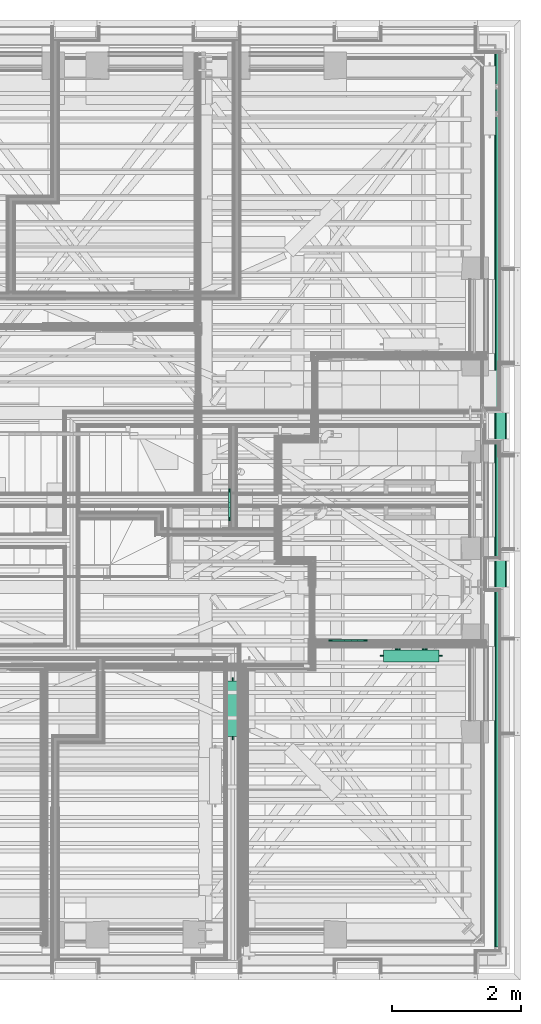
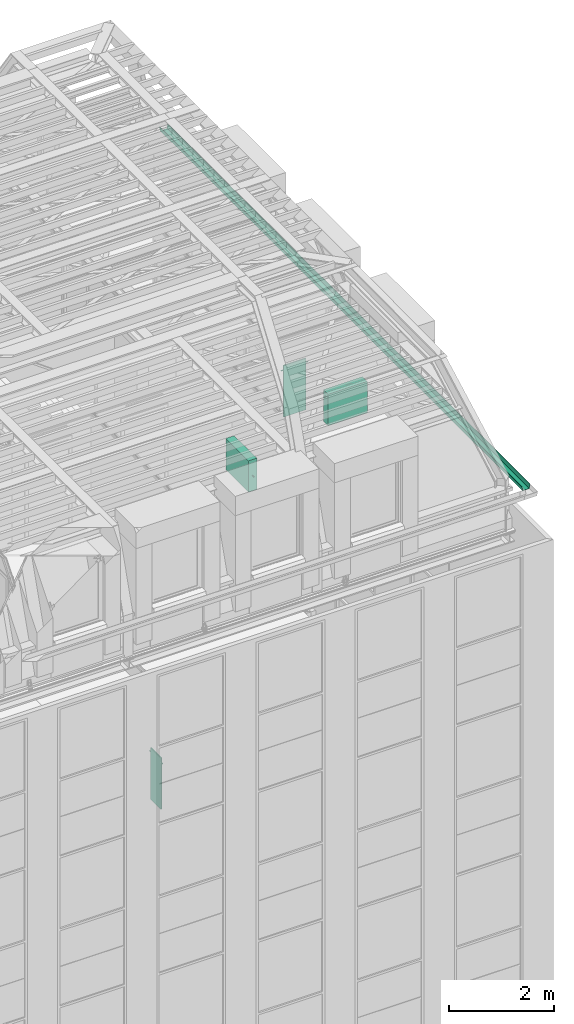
# One storey, part 167 of 183: 4 flow terminals, 1 flow fitting.
"""IFC2X3 building model written with IfcOpenShell, lengths in metres."""

from ifc_helpers import new_model, entity, si_unit, converted_unit, derived_unit, money_unit, direction, frame, origin_with_axes, place, context, subcontext, project, spatial, open_shell, faceted_brep, surface_model, material, type_object, element, save


model = new_model("IFC2X3")

# Units and contexts
model_context = context("Model", 3, precision=1e-05, world=origin_with_axes(), true_north=direction((0.0, 1.0)))
body_context = subcontext(model_context, "Body", "Model", "MODEL_VIEW", scale=1.0)
ifc_project = project(units=[si_unit("LENGTHUNIT", "METRE"), si_unit("AREAUNIT", "SQUARE_METRE"), si_unit("VOLUMEUNIT", "CUBIC_METRE"), si_unit("ABSORBEDDOSEUNIT", "GRAY"), si_unit("AMOUNTOFSUBSTANCEUNIT", "MOLE"), si_unit("DOSEEQUIVALENTUNIT", "SIEVERT"), si_unit("ELECTRICCAPACITANCEUNIT", "FARAD"), si_unit("ELECTRICCHARGEUNIT", "COULOMB"), si_unit("ELECTRICCONDUCTANCEUNIT", "SIEMENS"), si_unit("ELECTRICCURRENTUNIT", "AMPERE"), si_unit("ELECTRICRESISTANCEUNIT", "OHM"), si_unit("ELECTRICVOLTAGEUNIT", "VOLT"), si_unit("ENERGYUNIT", "JOULE"), si_unit("FORCEUNIT", "NEWTON"), si_unit("FREQUENCYUNIT", "HERTZ"), si_unit("ILLUMINANCEUNIT", "LUX"), si_unit("INDUCTANCEUNIT", "HENRY"), si_unit("LUMINOUSFLUXUNIT", "LUMEN"), si_unit("LUMINOUSINTENSITYUNIT", "CANDELA"), si_unit("MAGNETICFLUXDENSITYUNIT", "TESLA"), si_unit("MAGNETICFLUXUNIT", "WEBER"), si_unit("MASSUNIT", "GRAM"), converted_unit("PLANEANGLEUNIT", "degree", entity("IfcReal", 0.0174532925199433), si_unit("PLANEANGLEUNIT", "RADIAN"), dimensions=[0, 0, 0, 0, 0, 0, 0]), si_unit("POWERUNIT", "WATT"), si_unit("PRESSUREUNIT", "PASCAL"), si_unit("RADIOACTIVITYUNIT", "BECQUEREL"), si_unit("SOLIDANGLEUNIT", "STERADIAN"), si_unit("THERMODYNAMICTEMPERATUREUNIT", "KELVIN"), si_unit("TIMEUNIT", "SECOND"), derived_unit("ACCELERATIONUNIT", [(si_unit("LENGTHUNIT", "METRE"), 1), (si_unit("TIMEUNIT", "SECOND"), -2)]), derived_unit("ANGULARVELOCITYUNIT", [(converted_unit("PLANEANGLEUNIT", "degree", entity("IfcReal", 0.0174532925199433), si_unit("PLANEANGLEUNIT", "RADIAN"), dimensions=[0, 0, 0, 0, 0, 0, 0]), 1), (si_unit("TIMEUNIT", "SECOND"), -1)]), derived_unit("CURVATUREUNIT", [(converted_unit("PLANEANGLEUNIT", "degree", entity("IfcReal", 0.0174532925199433), si_unit("PLANEANGLEUNIT", "RADIAN"), dimensions=[0, 0, 0, 0, 0, 0, 0]), 1), (si_unit("LENGTHUNIT", "METRE"), -1)]), derived_unit("DYNAMICVISCOSITYUNIT", [(si_unit("PRESSUREUNIT", "PASCAL"), 1), (si_unit("TIMEUNIT", "SECOND"), 1)]), derived_unit("HEATFLUXDENSITYUNIT", [(si_unit("POWERUNIT", "WATT"), 1), (si_unit("LENGTHUNIT", "METRE"), -2)]), derived_unit("HEATINGVALUEUNIT", [(si_unit("ENERGYUNIT", "JOULE"), 1), (si_unit("MASSUNIT", "GRAM"), -1)]), derived_unit("INTEGERCOUNTRATEUNIT", [(si_unit("TIMEUNIT", "SECOND"), -1)]), derived_unit("IONCONCENTRATIONUNIT", [(si_unit("MASSUNIT", "GRAM"), 1), (si_unit("VOLUMEUNIT", "CUBIC_METRE"), -1)]), derived_unit("ISOTHERMALMOISTURECAPACITYUNIT", [(si_unit("VOLUMEUNIT", "CUBIC_METRE"), 1), (si_unit("MASSUNIT", "GRAM"), -1)]), derived_unit("KINEMATICVISCOSITYUNIT", [(si_unit("AREAUNIT", "SQUARE_METRE"), 1), (si_unit("TIMEUNIT", "SECOND"), -1)]), derived_unit("LINEARFORCEUNIT", [(si_unit("FORCEUNIT", "NEWTON"), 1), (si_unit("LENGTHUNIT", "METRE"), -1)]), derived_unit("LINEARMOMENTUNIT", [(si_unit("FORCEUNIT", "NEWTON"), 1), (si_unit("LENGTHUNIT", "METRE"), -1)]), derived_unit("LINEARSTIFFNESSUNIT", [(si_unit("FORCEUNIT", "NEWTON"), 1), (si_unit("LENGTHUNIT", "METRE"), -1)]), derived_unit("LINEARVELOCITYUNIT", [(si_unit("LENGTHUNIT", "METRE"), 1), (si_unit("TIMEUNIT", "SECOND"), -1)]), derived_unit("LUMINOUSINTENSITYDISTRIBUTIONUNIT", [(si_unit("LUMINOUSINTENSITYUNIT", "CANDELA"), 1), (si_unit("LUMINOUSFLUXUNIT", "LUMEN"), -1)]), derived_unit("MASSDENSITYUNIT", [(si_unit("MASSUNIT", "GRAM"), 1), (si_unit("VOLUMEUNIT", "CUBIC_METRE"), -1)]), derived_unit("MASSFLOWRATEUNIT", [(si_unit("MASSUNIT", "GRAM"), 1), (si_unit("TIMEUNIT", "SECOND"), -1)]), derived_unit("MASSPERLENGTHUNIT", [(si_unit("MASSUNIT", "GRAM"), 1), (si_unit("LENGTHUNIT", "METRE"), -1)]), derived_unit("MODULUSOFELASTICITYUNIT", [(si_unit("FORCEUNIT", "NEWTON"), 1), (si_unit("AREAUNIT", "SQUARE_METRE"), -1)]), derived_unit("MODULUSOFLINEARSUBGRADEREACTIONUNIT", [(si_unit("FORCEUNIT", "NEWTON"), 1), (si_unit("LENGTHUNIT", "METRE"), -2)]), derived_unit("MODULUSOFROTATIONALSUBGRADEREACTIONUNIT", [(si_unit("FORCEUNIT", "NEWTON"), 1), (si_unit("LENGTHUNIT", "METRE"), 1)]), derived_unit("MODULUSOFSUBGRADEREACTIONUNIT", [(si_unit("FORCEUNIT", "NEWTON"), 1), (si_unit("VOLUMEUNIT", "CUBIC_METRE"), -1)]), derived_unit("MOISTUREDIFFUSIVITYUNIT", [(si_unit("VOLUMEUNIT", "CUBIC_METRE"), 1), (si_unit("TIMEUNIT", "SECOND"), -1)]), derived_unit("MOLECULARWEIGHTUNIT", [(si_unit("MASSUNIT", "GRAM"), 1), (si_unit("AMOUNTOFSUBSTANCEUNIT", "MOLE"), -1)]), derived_unit("PLANARFORCEUNIT", [(si_unit("FORCEUNIT", "NEWTON"), 1), (si_unit("LENGTHUNIT", "METRE"), -2)]), derived_unit("ROTATIONALFREQUENCYUNIT", [(si_unit("TIMEUNIT", "SECOND"), -1)]), derived_unit("ROTATIONALMASSUNIT", [(si_unit("MASSUNIT", "GRAM"), 1), (si_unit("LENGTHUNIT", "METRE"), 2)]), derived_unit("ROTATIONALSTIFFNESSUNIT", [(si_unit("FORCEUNIT", "NEWTON"), 1), (si_unit("LENGTHUNIT", "METRE"), 1), (converted_unit("PLANEANGLEUNIT", "degree", entity("IfcReal", 0.0174532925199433), si_unit("PLANEANGLEUNIT", "RADIAN"), dimensions=[0, 0, 0, 0, 0, 0, 0]), -1)]), derived_unit("SECTIONAREAINTEGRALUNIT", [(si_unit("LENGTHUNIT", "METRE"), 5)]), derived_unit("SECTIONMODULUSUNIT", [(si_unit("LENGTHUNIT", "METRE"), 3)]), derived_unit("SHEARMODULUSUNIT", [(si_unit("FORCEUNIT", "NEWTON"), 1), (si_unit("AREAUNIT", "SQUARE_METRE"), -1)]), derived_unit("SOUNDPOWERUNIT", [(si_unit("ENERGYUNIT", "JOULE"), 1), (si_unit("TIMEUNIT", "SECOND"), -1)]), derived_unit("SPECIFICHEATCAPACITYUNIT", [(si_unit("FORCEUNIT", "NEWTON"), 1), (si_unit("MASSUNIT", "GRAM"), -1), (si_unit("THERMODYNAMICTEMPERATUREUNIT", "KELVIN"), -1)]), derived_unit("TEMPERATUREGRADIENTUNIT", [(si_unit("THERMODYNAMICTEMPERATUREUNIT", "KELVIN"), 1), (si_unit("LENGTHUNIT", "METRE"), -1)]), derived_unit("THERMALADMITTANCEUNIT", [(si_unit("POWERUNIT", "WATT"), 1), (si_unit("AREAUNIT", "SQUARE_METRE"), -1), (si_unit("THERMODYNAMICTEMPERATUREUNIT", "KELVIN"), -1)]), derived_unit("THERMALCONDUCTANCEUNIT", [(si_unit("POWERUNIT", "WATT"), 1), (si_unit("LENGTHUNIT", "METRE"), -1), (si_unit("THERMODYNAMICTEMPERATUREUNIT", "KELVIN"), -1)]), derived_unit("THERMALEXPANSIONCOEFFICIENTUNIT", [(si_unit("THERMODYNAMICTEMPERATUREUNIT", "KELVIN"), -1)]), derived_unit("THERMALRESISTANCEUNIT", [(si_unit("AREAUNIT", "SQUARE_METRE"), 1), (si_unit("POWERUNIT", "WATT"), -1)]), derived_unit("THERMALTRANSMITTANCEUNIT", [(si_unit("POWERUNIT", "WATT"), 1), (si_unit("AREAUNIT", "SQUARE_METRE"), -1), (si_unit("THERMODYNAMICTEMPERATUREUNIT", "KELVIN"), -1)]), derived_unit("TORQUEUNIT", [(si_unit("FORCEUNIT", "NEWTON"), 1), (si_unit("LENGTHUNIT", "METRE"), 1)]), derived_unit("VAPORPERMEABILITYUNIT", [(si_unit("MASSUNIT", "GRAM"), 1), (si_unit("TIMEUNIT", "SECOND"), -1)]), derived_unit("VOLUMETRICFLOWRATEUNIT", [(si_unit("VOLUMEUNIT", "CUBIC_METRE"), 1), (si_unit("TIMEUNIT", "SECOND"), -1)]), derived_unit("WARPINGCONSTANTUNIT", [(si_unit("LENGTHUNIT", "METRE"), 6)]), derived_unit("WARPINGMOMENTUNIT", [(si_unit("FORCEUNIT", "NEWTON"), 1), (si_unit("LENGTHUNIT", "METRE"), 2)]), money_unit("GBP")], contexts=[model_context])

# Site, building, storey
site_placement = place(None, origin_with_axes())
site = spatial("IfcSite", under=ifc_project, at=site_placement, Name="Site", CompositionType="ELEMENT")
building_placement = place(site_placement, origin_with_axes())
building = spatial("IfcBuilding", under=site, at=building_placement, Name="Building01", CompositionType="ELEMENT")
storey_placement = place(building_placement, frame((0.0, 0.0, 5.15), z_axis=(0.0, 0.0, 1.0), x_axis=(1.0, 0.0, 0.0)))
storey = spatial("IfcBuildingStorey", under=building, at=storey_placement, Name="1F", CompositionType="ELEMENT", Elevation=5.15)

# Flow fitting
ifc_material_1 = material(Name="A_BSUK_RainwaterDrainageSystems")
pipe_fitting_type = type_object("IfcPipeFittingType", Name="A-RainwaterDrainageSystems-GutterStraight", PredefinedType="NOTDEFINED")
flow_fitting_placement = place(storey_placement, frame((26.576848, 14.385347, 10.629268), z_axis=(0.0, 0.0, 1.0), x_axis=(0.0, -1.0, 0.0)))
element("IfcFlowFitting", 1, at=flow_fitting_placement, inside=storey, type_object=pipe_fitting_type, material=ifc_material_1, Name="A-RainwaterDrainageSystems-GutterStraight", ObjectType="A-RainwaterDrainageSystems-GutterStraight", context=body_context, shape_type="Brep", body=[
    faceted_brep([(13.871001, 0.0, 0.100732), (1e-06, 0.0, 0.100732), (1e-06, 0.0, 0.099144), (13.871001, 0.0, 0.099145), (13.871001, 0.005654, 0.099145), (1e-06, 0.005654, 0.099144), (1e-06, 0.018707, 0.0), (13.871001, 0.018707, 0.0), (1e-06, 0.170099, 0.0), (13.871001, 0.170099, 0.0), (1e-06, 0.183152, 0.099144), (13.871001, 0.183152, 0.099145), (1e-06, 0.188806, 0.099144), (13.871001, 0.188806, 0.099145), (1e-06, 0.188806, 0.100732), (13.871001, 0.188806, 0.100732), (1e-06, 0.18176, 0.100732), (13.871001, 0.18176, 0.100732), (1e-06, 0.168707, 0.001588), (13.871001, 0.168707, 0.001588), (1e-06, 0.020099, 0.001588), (13.871001, 0.020099, 0.001588), (1e-06, 0.007047, 0.100732), (13.871001, 0.007047, 0.100732)], [[[0, 1, 2, 3]], [[4, 5, 6, 7]], [[7, 6, 8, 9]], [[9, 8, 10, 11]], [[11, 10, 12, 13]], [[13, 12, 14, 15]], [[15, 14, 16, 17]], [[17, 16, 18, 19]], [[19, 18, 20, 21]], [[21, 20, 22, 23]], [[23, 22, 1, 0]], [[3, 4, 7, 9, 11, 13, 15, 17, 19, 21, 23, 0]], [[3, 2, 5, 4]], [[1, 22, 20, 18, 16, 14, 12, 10, 8, 6, 5, 2]]]),
])

# Space
space_1_placement = place(storey_placement, frame((17.73844, 7.349915, 9.81), z_axis=(0.0, 0.0, 1.0), x_axis=(0.0, -1.0, 0.0)))
space_1 = spatial("IfcSpace", under=storey, at=space_1_placement, Name="24", CompositionType="ELEMENT", InteriorOrExteriorSpace="NOTDEFINED")

# Flow terminals
ifc_material_2 = material(Name="M_BSUK_Ventilation")
space_heater_type_1 = type_object("IfcSpaceHeaterType", Name="M-BmvRadiatorpanel-Panel", PredefinedType="NOTDEFINED")
flow_terminal_1_placement = place(storey_placement, frame((22.514774, 3.777439, 10.445), z_axis=(0.0, 0.0, 1.0), x_axis=(0.0, -1.0, 0.0)))
element("IfcFlowTerminal", 2, at=flow_terminal_1_placement, inside=space_1, type_object=space_heater_type_1, material=ifc_material_2, Name="M-BmvRadiatorpanel-Panel", ObjectType="M-BmvRadiatorpanel-Panel", context=body_context, shape_type="SurfaceModel", body=[
    surface_model("IfcShellBasedSurfaceModel", [(-0.865, -0.0925, 0.365), (-0.865, 0.0925, 0.365), (0.0, 0.0925, 0.365), (0.0, -0.0925, 0.365), (-0.865, -0.0925, -0.365), (-0.865, 0.0925, -0.365), (0.0, -0.0925, -0.365), (0.0, 0.0925, -0.365), (-0.1325, 0.12025, 0.175), (-0.7325, 0.12025, 0.175), (-0.7325, 0.14525, 0.175), (-0.1325, 0.14525, 0.175), (-0.7325, 0.14525, -0.175), (-0.1325, 0.14525, -0.175), (-0.7325, 0.12025, -0.175), (-0.1325, 0.12025, -0.175), (-0.2225, 0.0925, 0.0775), (-0.2225, 0.12025, 0.0775), (-0.205279, 0.12025, 0.080925), (-0.205279, 0.0925, 0.080925), (-0.19068, 0.12025, 0.09068), (-0.19068, 0.0925, 0.09068), (-0.180925, 0.12025, 0.105279), (-0.180925, 0.0925, 0.105279), (-0.1775, 0.12025, 0.1225), (-0.1775, 0.0925, 0.1225), (-0.180925, 0.12025, 0.139721), (-0.180925, 0.0925, 0.139721), (-0.19068, 0.12025, 0.15432), (-0.19068, 0.0925, 0.15432), (-0.205279, 0.12025, 0.164075), (-0.205279, 0.0925, 0.164075), (-0.2225, 0.12025, 0.1675), (-0.2225, 0.0925, 0.1675), (-0.239721, 0.12025, 0.164075), (-0.239721, 0.0925, 0.164075), (-0.25432, 0.12025, 0.15432), (-0.25432, 0.0925, 0.15432), (-0.264075, 0.12025, 0.139721), (-0.264075, 0.0925, 0.139721), (-0.2675, 0.12025, 0.1225), (-0.2675, 0.0925, 0.1225), (-0.264075, 0.12025, 0.105279), (-0.264075, 0.0925, 0.105279), (-0.25432, 0.12025, 0.09068), (-0.25432, 0.0925, 0.09068), (-0.239721, 0.12025, 0.080925), (-0.239721, 0.0925, 0.080925), (-0.6425, 0.0925, 0.0775), (-0.6425, 0.12025, 0.0775), (-0.625279, 0.12025, 0.080925), (-0.625279, 0.0925, 0.080925), (-0.61068, 0.12025, 0.09068), (-0.61068, 0.0925, 0.09068), (-0.600925, 0.12025, 0.105279), (-0.600925, 0.0925, 0.105279), (-0.5975, 0.12025, 0.1225), (-0.5975, 0.0925, 0.1225), (-0.600925, 0.12025, 0.139721), (-0.600925, 0.0925, 0.139721), (-0.61068, 0.12025, 0.15432), (-0.61068, 0.0925, 0.15432), (-0.625279, 0.12025, 0.164075), (-0.625279, 0.0925, 0.164075), (-0.6425, 0.12025, 0.1675), (-0.6425, 0.0925, 0.1675), (-0.659721, 0.12025, 0.164075), (-0.659721, 0.0925, 0.164075), (-0.67432, 0.12025, 0.15432), (-0.67432, 0.0925, 0.15432), (-0.684075, 0.12025, 0.139721), (-0.684075, 0.0925, 0.139721), (-0.6875, 0.12025, 0.1225), (-0.6875, 0.0925, 0.1225), (-0.684075, 0.12025, 0.105279), (-0.684075, 0.0925, 0.105279), (-0.67432, 0.12025, 0.09068), (-0.67432, 0.0925, 0.09068), (-0.659721, 0.12025, 0.080925), (-0.659721, 0.0925, 0.080925), (0.05, 0.0, -0.0225), (0.0, 0.0, -0.0225), (0.0, 0.004784, -0.021548), (0.05, 0.004784, -0.021548), (0.0, 0.008839, -0.018839), (0.05, 0.008839, -0.018839), (0.0, 0.011548, -0.014784), (0.05, 0.011548, -0.014784), (0.0, 0.0125, -0.01), (0.05, 0.0125, -0.01), (0.0, 0.011548, -0.005216), (0.05, 0.011548, -0.005216), (0.0, 0.008839, -0.001161), (0.05, 0.008839, -0.001161), (0.0, 0.004784, 0.001548), (0.05, 0.004784, 0.001548), (0.0, 0.0, 0.0025), (0.05, 0.0, 0.0025), (0.0, -0.004784, 0.001548), (0.05, -0.004784, 0.001548), (0.0, -0.008839, -0.001161), (0.05, -0.008839, -0.001161), (0.0, -0.011548, -0.005216), (0.05, -0.011548, -0.005216), (0.0, -0.0125, -0.01), (0.05, -0.0125, -0.01), (0.0, -0.011548, -0.014784), (0.05, -0.011548, -0.014784), (0.0, -0.008839, -0.018839), (0.05, -0.008839, -0.018839), (0.0, -0.004784, -0.021548), (0.05, -0.004784, -0.021548), (-0.915, 0.0, 0.2525), (-0.865, 0.0, 0.2525), (-0.865, -0.004784, 0.253452), (-0.915, -0.004784, 0.253452), (-0.865, -0.008839, 0.256161), (-0.915, -0.008839, 0.256161), (-0.865, -0.011548, 0.260216), (-0.915, -0.011548, 0.260216), (-0.865, -0.0125, 0.265), (-0.915, -0.0125, 0.265), (-0.865, -0.011548, 0.269784), (-0.915, -0.011548, 0.269784), (-0.865, -0.008839, 0.273839), (-0.915, -0.008839, 0.273839), (-0.865, -0.004784, 0.276548), (-0.915, -0.004784, 0.276548), (-0.865, 0.0, 0.2775), (-0.915, 0.0, 0.2775), (-0.865, 0.004784, 0.276548), (-0.915, 0.004784, 0.276548), (-0.865, 0.008839, 0.273839), (-0.915, 0.008839, 0.273839), (-0.865, 0.011548, 0.269784), (-0.915, 0.011548, 0.269784), (-0.865, 0.0125, 0.265), (-0.915, 0.0125, 0.265), (-0.865, 0.011548, 0.260216), (-0.915, 0.011548, 0.260216), (-0.865, 0.008839, 0.256161), (-0.915, 0.008839, 0.256161), (-0.865, 0.004784, 0.253452), (-0.915, 0.004784, 0.253452)], [open_shell([[[0, 1, 2, 3]], [[4, 5, 1, 0]], [[6, 7, 5, 4]], [[3, 2, 7, 6]], [[1, 5, 7, 2]], [[3, 6, 4, 0]], [[8, 9, 10, 11]], [[11, 10, 12, 13]], [[13, 12, 14, 15]], [[15, 14, 9, 8]], [[9, 14, 12, 10]], [[11, 13, 15, 8]], [[16, 17, 18, 19]], [[19, 18, 20, 21]], [[21, 20, 22, 23]], [[23, 22, 24, 25]], [[25, 24, 26, 27]], [[27, 26, 28, 29]], [[29, 28, 30, 31]], [[31, 30, 32, 33]], [[33, 32, 34, 35]], [[35, 34, 36, 37]], [[37, 36, 38, 39]], [[39, 38, 40, 41]], [[41, 40, 42, 43]], [[43, 42, 44, 45]], [[45, 44, 46, 47]], [[47, 46, 17, 16]], [[48, 49, 50, 51]], [[51, 50, 52, 53]], [[53, 52, 54, 55]], [[55, 54, 56, 57]], [[57, 56, 58, 59]], [[59, 58, 60, 61]], [[61, 60, 62, 63]], [[63, 62, 64, 65]], [[65, 64, 66, 67]], [[67, 66, 68, 69]], [[69, 68, 70, 71]], [[71, 70, 72, 73]], [[73, 72, 74, 75]], [[75, 74, 76, 77]], [[77, 76, 78, 79]], [[79, 78, 49, 48]], [[80, 81, 82, 83]], [[83, 82, 84, 85]], [[85, 84, 86, 87]], [[87, 86, 88, 89]], [[89, 88, 90, 91]], [[91, 90, 92, 93]], [[93, 92, 94, 95]], [[95, 94, 96, 97]], [[97, 96, 98, 99]], [[99, 98, 100, 101]], [[101, 100, 102, 103]], [[103, 102, 104, 105]], [[105, 104, 106, 107]], [[107, 106, 108, 109]], [[109, 108, 110, 111]], [[111, 110, 81, 80]], [[112, 113, 114, 115]], [[115, 114, 116, 117]], [[117, 116, 118, 119]], [[119, 118, 120, 121]], [[121, 120, 122, 123]], [[123, 122, 124, 125]], [[125, 124, 126, 127]], [[127, 126, 128, 129]], [[129, 128, 130, 131]], [[131, 130, 132, 133]], [[133, 132, 134, 135]], [[135, 134, 136, 137]], [[137, 136, 138, 139]], [[139, 138, 140, 141]], [[141, 140, 142, 143]], [[143, 142, 113, 112]]])]),
])
flow_terminal_2_placement = place(storey_placement, frame((25.717389, 5.029726, 10.445), z_axis=(0.0, 0.0, 1.0), x_axis=(1.0, 0.0, 0.0)))
element("IfcFlowTerminal", 3, at=flow_terminal_2_placement, inside=space_1, type_object=space_heater_type_1, material=ifc_material_2, Name="M-BmvRadiatorpanel-Panel", ObjectType="M-BmvRadiatorpanel-Panel", context=body_context, shape_type="SurfaceModel", body=[
    surface_model("IfcShellBasedSurfaceModel", [(-0.865, -0.0925, 0.365), (-0.865, 0.0925, 0.365), (0.0, 0.0925, 0.365), (0.0, -0.0925, 0.365), (-0.865, -0.0925, -0.365), (-0.865, 0.0925, -0.365), (0.0, -0.0925, -0.365), (0.0, 0.0925, -0.365), (-0.1325, 0.12025, 0.175), (-0.7325, 0.12025, 0.175), (-0.7325, 0.14525, 0.175), (-0.1325, 0.14525, 0.175), (-0.7325, 0.14525, -0.175), (-0.1325, 0.14525, -0.175), (-0.7325, 0.12025, -0.175), (-0.1325, 0.12025, -0.175), (-0.2225, 0.0925, 0.0775), (-0.2225, 0.12025, 0.0775), (-0.205279, 0.12025, 0.080925), (-0.205279, 0.0925, 0.080925), (-0.19068, 0.12025, 0.09068), (-0.19068, 0.0925, 0.09068), (-0.180925, 0.12025, 0.105279), (-0.180925, 0.0925, 0.105279), (-0.1775, 0.12025, 0.1225), (-0.1775, 0.0925, 0.1225), (-0.180925, 0.12025, 0.139721), (-0.180925, 0.0925, 0.139721), (-0.19068, 0.12025, 0.15432), (-0.19068, 0.0925, 0.15432), (-0.205279, 0.12025, 0.164075), (-0.205279, 0.0925, 0.164075), (-0.2225, 0.12025, 0.1675), (-0.2225, 0.0925, 0.1675), (-0.239721, 0.12025, 0.164075), (-0.239721, 0.0925, 0.164075), (-0.25432, 0.12025, 0.15432), (-0.25432, 0.0925, 0.15432), (-0.264075, 0.12025, 0.139721), (-0.264075, 0.0925, 0.139721), (-0.2675, 0.12025, 0.1225), (-0.2675, 0.0925, 0.1225), (-0.264075, 0.12025, 0.105279), (-0.264075, 0.0925, 0.105279), (-0.25432, 0.12025, 0.09068), (-0.25432, 0.0925, 0.09068), (-0.239721, 0.12025, 0.080925), (-0.239721, 0.0925, 0.080925), (-0.6425, 0.0925, 0.0775), (-0.6425, 0.12025, 0.0775), (-0.625279, 0.12025, 0.080925), (-0.625279, 0.0925, 0.080925), (-0.61068, 0.12025, 0.09068), (-0.61068, 0.0925, 0.09068), (-0.600925, 0.12025, 0.105279), (-0.600925, 0.0925, 0.105279), (-0.5975, 0.12025, 0.1225), (-0.5975, 0.0925, 0.1225), (-0.600925, 0.12025, 0.139721), (-0.600925, 0.0925, 0.139721), (-0.61068, 0.12025, 0.15432), (-0.61068, 0.0925, 0.15432), (-0.625279, 0.12025, 0.164075), (-0.625279, 0.0925, 0.164075), (-0.6425, 0.12025, 0.1675), (-0.6425, 0.0925, 0.1675), (-0.659721, 0.12025, 0.164075), (-0.659721, 0.0925, 0.164075), (-0.67432, 0.12025, 0.15432), (-0.67432, 0.0925, 0.15432), (-0.684075, 0.12025, 0.139721), (-0.684075, 0.0925, 0.139721), (-0.6875, 0.12025, 0.1225), (-0.6875, 0.0925, 0.1225), (-0.684075, 0.12025, 0.105279), (-0.684075, 0.0925, 0.105279), (-0.67432, 0.12025, 0.09068), (-0.67432, 0.0925, 0.09068), (-0.659721, 0.12025, 0.080925), (-0.659721, 0.0925, 0.080925), (0.05, 0.0, -0.0225), (0.0, 0.0, -0.0225), (0.0, 0.004784, -0.021548), (0.05, 0.004784, -0.021548), (0.0, 0.008839, -0.018839), (0.05, 0.008839, -0.018839), (0.0, 0.011548, -0.014784), (0.05, 0.011548, -0.014784), (0.0, 0.0125, -0.01), (0.05, 0.0125, -0.01), (0.0, 0.011548, -0.005216), (0.05, 0.011548, -0.005216), (0.0, 0.008839, -0.001161), (0.05, 0.008839, -0.001161), (0.0, 0.004784, 0.001548), (0.05, 0.004784, 0.001548), (0.0, 0.0, 0.0025), (0.05, 0.0, 0.0025), (0.0, -0.004784, 0.001548), (0.05, -0.004784, 0.001548), (0.0, -0.008839, -0.001161), (0.05, -0.008839, -0.001161), (0.0, -0.011548, -0.005216), (0.05, -0.011548, -0.005216), (0.0, -0.0125, -0.01), (0.05, -0.0125, -0.01), (0.0, -0.011548, -0.014784), (0.05, -0.011548, -0.014784), (0.0, -0.008839, -0.018839), (0.05, -0.008839, -0.018839), (0.0, -0.004784, -0.021548), (0.05, -0.004784, -0.021548), (-0.915, 0.0, 0.2525), (-0.865, 0.0, 0.2525), (-0.865, -0.004784, 0.253452), (-0.915, -0.004784, 0.253452), (-0.865, -0.008839, 0.256161), (-0.915, -0.008839, 0.256161), (-0.865, -0.011548, 0.260216), (-0.915, -0.011548, 0.260216), (-0.865, -0.0125, 0.265), (-0.915, -0.0125, 0.265), (-0.865, -0.011548, 0.269784), (-0.915, -0.011548, 0.269784), (-0.865, -0.008839, 0.273839), (-0.915, -0.008839, 0.273839), (-0.865, -0.004784, 0.276548), (-0.915, -0.004784, 0.276548), (-0.865, 0.0, 0.2775), (-0.915, 0.0, 0.2775), (-0.865, 0.004784, 0.276548), (-0.915, 0.004784, 0.276548), (-0.865, 0.008839, 0.273839), (-0.915, 0.008839, 0.273839), (-0.865, 0.011548, 0.269784), (-0.915, 0.011548, 0.269784), (-0.865, 0.0125, 0.265), (-0.915, 0.0125, 0.265), (-0.865, 0.011548, 0.260216), (-0.915, 0.011548, 0.260216), (-0.865, 0.008839, 0.256161), (-0.915, 0.008839, 0.256161), (-0.865, 0.004784, 0.253452), (-0.915, 0.004784, 0.253452)], [open_shell([[[0, 1, 2, 3]], [[4, 5, 1, 0]], [[6, 7, 5, 4]], [[3, 2, 7, 6]], [[1, 5, 7, 2]], [[3, 6, 4, 0]], [[8, 9, 10, 11]], [[11, 10, 12, 13]], [[13, 12, 14, 15]], [[15, 14, 9, 8]], [[9, 14, 12, 10]], [[11, 13, 15, 8]], [[16, 17, 18, 19]], [[19, 18, 20, 21]], [[21, 20, 22, 23]], [[23, 22, 24, 25]], [[25, 24, 26, 27]], [[27, 26, 28, 29]], [[29, 28, 30, 31]], [[31, 30, 32, 33]], [[33, 32, 34, 35]], [[35, 34, 36, 37]], [[37, 36, 38, 39]], [[39, 38, 40, 41]], [[41, 40, 42, 43]], [[43, 42, 44, 45]], [[45, 44, 46, 47]], [[47, 46, 17, 16]], [[48, 49, 50, 51]], [[51, 50, 52, 53]], [[53, 52, 54, 55]], [[55, 54, 56, 57]], [[57, 56, 58, 59]], [[59, 58, 60, 61]], [[61, 60, 62, 63]], [[63, 62, 64, 65]], [[65, 64, 66, 67]], [[67, 66, 68, 69]], [[69, 68, 70, 71]], [[71, 70, 72, 73]], [[73, 72, 74, 75]], [[75, 74, 76, 77]], [[77, 76, 78, 79]], [[79, 78, 49, 48]], [[80, 81, 82, 83]], [[83, 82, 84, 85]], [[85, 84, 86, 87]], [[87, 86, 88, 89]], [[89, 88, 90, 91]], [[91, 90, 92, 93]], [[93, 92, 94, 95]], [[95, 94, 96, 97]], [[97, 96, 98, 99]], [[99, 98, 100, 101]], [[101, 100, 102, 103]], [[103, 102, 104, 105]], [[105, 104, 106, 107]], [[107, 106, 108, 109]], [[109, 108, 110, 111]], [[111, 110, 81, 80]], [[112, 113, 114, 115]], [[115, 114, 116, 117]], [[117, 116, 118, 119]], [[119, 118, 120, 121]], [[121, 120, 122, 123]], [[123, 122, 124, 125]], [[125, 124, 126, 127]], [[127, 126, 128, 129]], [[129, 128, 130, 131]], [[131, 130, 132, 133]], [[133, 132, 134, 135]], [[135, 134, 136, 137]], [[137, 136, 138, 139]], [[139, 138, 140, 141]], [[141, 140, 142, 143]], [[143, 142, 113, 112]]])]),
])

# Space
space_2_placement = place(storey_placement, frame((20.122661, 7.25, 0.017975), z_axis=(0.0, 0.0, 1.0), x_axis=(1.0, 0.0, 0.0)))
space_2 = spatial("IfcSpace", under=storey, at=space_2_placement, Name="bath", CompositionType="ELEMENT", InteriorOrExteriorSpace="NOTDEFINED")

# Flow terminals
space_heater_type_2 = type_object("IfcSpaceHeaterType", Name="M-BmvRadiator-Column", PredefinedType="NOTDEFINED")
flow_terminal_3_placement = place(storey_placement, frame((22.464161, 7.175, 1.2), z_axis=(0.0, 0.0, 1.0), x_axis=(0.0, -1.0, 0.0)))
element("IfcFlowTerminal", 4, at=flow_terminal_3_placement, inside=space_2, type_object=space_heater_type_2, material=ifc_material_2, Name="M-BmvRadiator-Column", ObjectType="M-BmvRadiator-Column", context=body_context, shape_type="SurfaceModel", body=[
    surface_model("IfcShellBasedSurfaceModel", [(0.0, -0.0125, 0.6), (0.0, -0.0125, -0.6), (0.0, 0.0125, -0.6), (0.0, 0.0125, 0.6), (-0.4, -0.0125, 0.6), (-0.4, -0.0125, -0.6), (-0.4, 0.0125, -0.6), (-0.4, 0.0125, 0.6), (-0.08, 0.0125, 0.6), (-0.08, -0.0125, 0.6), (-0.08, -0.0125, -0.6), (-0.08, 0.0125, -0.6), (-0.16, 0.0125, 0.6), (-0.16, -0.0125, 0.6), (-0.16, -0.0125, -0.6), (-0.16, 0.0125, -0.6), (-0.24, 0.0125, 0.6), (-0.24, -0.0125, 0.6), (-0.24, -0.0125, -0.6), (-0.24, 0.0125, -0.6), (-0.32, 0.0125, 0.6), (-0.32, -0.0125, 0.6), (-0.32, -0.0125, -0.6), (-0.32, 0.0125, -0.6), (0.05, 0.0, 0.4825), (0.0, 0.0, 0.4825), (0.0, 0.003827, 0.483261), (0.05, 0.003827, 0.483261), (0.0, 0.007071, 0.485429), (0.05, 0.007071, 0.485429), (0.0, 0.009239, 0.488673), (0.05, 0.009239, 0.488673), (0.0, 0.01, 0.4925), (0.05, 0.01, 0.4925), (0.0, 0.009239, 0.496327), (0.05, 0.009239, 0.496327), (0.0, 0.007071, 0.499571), (0.05, 0.007071, 0.499571), (0.0, 0.003827, 0.501739), (0.05, 0.003827, 0.501739), (0.0, 0.0, 0.5025), (0.05, 0.0, 0.5025), (0.0, -0.003827, 0.501739), (0.05, -0.003827, 0.501739), (0.0, -0.007071, 0.499571), (0.05, -0.007071, 0.499571), (0.0, -0.009239, 0.496327), (0.05, -0.009239, 0.496327), (0.0, -0.01, 0.4925), (0.05, -0.01, 0.4925), (0.0, -0.009239, 0.488673), (0.05, -0.009239, 0.488673), (0.0, -0.007071, 0.485429), (0.05, -0.007071, 0.485429), (0.0, -0.003827, 0.483261), (0.05, -0.003827, 0.483261), (-0.45, 0.0, 0.4884), (-0.4, 0.0, 0.4884), (-0.4, -0.003827, 0.489161), (-0.45, -0.003827, 0.489161), (-0.4, -0.007071, 0.491329), (-0.45, -0.007071, 0.491329), (-0.4, -0.009239, 0.494573), (-0.45, -0.009239, 0.494573), (-0.4, -0.01, 0.4984), (-0.45, -0.01, 0.4984), (-0.4, -0.009239, 0.502227), (-0.45, -0.009239, 0.502227), (-0.4, -0.007071, 0.505471), (-0.45, -0.007071, 0.505471), (-0.4, -0.003827, 0.507639), (-0.45, -0.003827, 0.507639), (-0.4, 0.0, 0.5084), (-0.45, 0.0, 0.5084), (-0.4, 0.003827, 0.507639), (-0.45, 0.003827, 0.507639), (-0.4, 0.007071, 0.505471), (-0.45, 0.007071, 0.505471), (-0.4, 0.009239, 0.502227), (-0.45, 0.009239, 0.502227), (-0.4, 0.01, 0.4984), (-0.45, 0.01, 0.4984), (-0.4, 0.009239, 0.494573), (-0.45, 0.009239, 0.494573), (-0.4, 0.007071, 0.491329), (-0.45, 0.007071, 0.491329), (-0.4, 0.003827, 0.489161), (-0.45, 0.003827, 0.489161)], [open_shell([[[0, 1, 2, 3]], [[4, 5, 6, 7]], [[8, 3, 0, 9]], [[9, 0, 1, 10]], [[10, 1, 2, 11]], [[11, 2, 3, 8]], [[12, 8, 9, 13]], [[13, 9, 10, 14]], [[14, 10, 11, 15]], [[15, 11, 8, 12]], [[16, 12, 13, 17]], [[17, 13, 14, 18]], [[18, 14, 15, 19]], [[19, 15, 12, 16]], [[20, 16, 17, 21]], [[21, 17, 18, 22]], [[22, 18, 19, 23]], [[23, 19, 16, 20]], [[7, 20, 21, 4]], [[4, 21, 22, 5]], [[5, 22, 23, 6]], [[6, 23, 20, 7]], [[24, 25, 26, 27]], [[27, 26, 28, 29]], [[29, 28, 30, 31]], [[31, 30, 32, 33]], [[33, 32, 34, 35]], [[35, 34, 36, 37]], [[37, 36, 38, 39]], [[39, 38, 40, 41]], [[41, 40, 42, 43]], [[43, 42, 44, 45]], [[45, 44, 46, 47]], [[47, 46, 48, 49]], [[49, 48, 50, 51]], [[51, 50, 52, 53]], [[53, 52, 54, 55]], [[55, 54, 25, 24]], [[56, 57, 58, 59]], [[59, 58, 60, 61]], [[61, 60, 62, 63]], [[63, 62, 64, 65]], [[65, 64, 66, 67]], [[67, 66, 68, 69]], [[69, 68, 70, 71]], [[71, 70, 72, 73]], [[73, 72, 74, 75]], [[75, 74, 76, 77]], [[77, 76, 78, 79]], [[79, 78, 80, 81]], [[81, 80, 82, 83]], [[83, 82, 84, 85]], [[85, 84, 86, 87]], [[87, 86, 57, 56]]])]),
])
flow_terminal_4_placement = place(storey_placement, frame((24.052355, 5.268454, 10.965), z_axis=(0.0, 0.0, 1.0), x_axis=(1.0, 0.0, 0.0)))
element("IfcFlowTerminal", 5, at=flow_terminal_4_placement, inside=space_1, type_object=space_heater_type_2, material=ifc_material_2, Name="M-BmvRadiator-Column", ObjectType="M-BmvRadiator-Column", context=body_context, shape_type="SurfaceModel", body=[
    surface_model("IfcShellBasedSurfaceModel", [(0.0, -0.0125, 0.6), (0.0, -0.0125, -0.6), (0.0, 0.0125, -0.6), (0.0, 0.0125, 0.6), (0.5, -0.0125, 0.6), (0.5, -0.0125, -0.6), (0.5, 0.0125, -0.6), (0.5, 0.0125, 0.6), (0.1, 0.0125, 0.6), (0.1, -0.0125, 0.6), (0.1, -0.0125, -0.6), (0.1, 0.0125, -0.6), (0.2, 0.0125, 0.6), (0.2, -0.0125, 0.6), (0.2, -0.0125, -0.6), (0.2, 0.0125, -0.6), (0.3, 0.0125, 0.6), (0.3, -0.0125, 0.6), (0.3, -0.0125, -0.6), (0.3, 0.0125, -0.6), (0.4, 0.0125, 0.6), (0.4, -0.0125, 0.6), (0.4, -0.0125, -0.6), (0.4, 0.0125, -0.6), (-0.05, 0.0, 0.4825), (0.0, 0.0, 0.4825), (0.0, -0.003827, 0.483261), (-0.05, -0.003827, 0.483261), (0.0, -0.007071, 0.485429), (-0.05, -0.007071, 0.485429), (0.0, -0.009239, 0.488673), (-0.05, -0.009239, 0.488673), (0.0, -0.01, 0.4925), (-0.05, -0.01, 0.4925), (0.0, -0.009239, 0.496327), (-0.05, -0.009239, 0.496327), (0.0, -0.007071, 0.499571), (-0.05, -0.007071, 0.499571), (0.0, -0.003827, 0.501739), (-0.05, -0.003827, 0.501739), (0.0, 0.0, 0.5025), (-0.05, 0.0, 0.5025), (0.0, 0.003827, 0.501739), (-0.05, 0.003827, 0.501739), (0.0, 0.007071, 0.499571), (-0.05, 0.007071, 0.499571), (0.0, 0.009239, 0.496327), (-0.05, 0.009239, 0.496327), (0.0, 0.01, 0.4925), (-0.05, 0.01, 0.4925), (0.0, 0.009239, 0.488673), (-0.05, 0.009239, 0.488673), (0.0, 0.007071, 0.485429), (-0.05, 0.007071, 0.485429), (0.0, 0.003827, 0.483261), (-0.05, 0.003827, 0.483261), (0.55, 0.0, 0.4884), (0.5, 0.0, 0.4884), (0.5, 0.003827, 0.489161), (0.55, 0.003827, 0.489161), (0.5, 0.007071, 0.491329), (0.55, 0.007071, 0.491329), (0.5, 0.009239, 0.494573), (0.55, 0.009239, 0.494573), (0.5, 0.01, 0.4984), (0.55, 0.01, 0.4984), (0.5, 0.009239, 0.502227), (0.55, 0.009239, 0.502227), (0.5, 0.007071, 0.505471), (0.55, 0.007071, 0.505471), (0.5, 0.003827, 0.507639), (0.55, 0.003827, 0.507639), (0.5, 0.0, 0.5084), (0.55, 0.0, 0.5084), (0.5, -0.003827, 0.507639), (0.55, -0.003827, 0.507639), (0.5, -0.007071, 0.505471), (0.55, -0.007071, 0.505471), (0.5, -0.009239, 0.502227), (0.55, -0.009239, 0.502227), (0.5, -0.01, 0.4984), (0.55, -0.01, 0.4984), (0.5, -0.009239, 0.494573), (0.55, -0.009239, 0.494573), (0.5, -0.007071, 0.491329), (0.55, -0.007071, 0.491329), (0.5, -0.003827, 0.489161), (0.55, -0.003827, 0.489161)], [open_shell([[[0, 1, 2, 3]], [[4, 5, 6, 7]], [[8, 3, 0, 9]], [[9, 0, 1, 10]], [[10, 1, 2, 11]], [[11, 2, 3, 8]], [[12, 8, 9, 13]], [[13, 9, 10, 14]], [[14, 10, 11, 15]], [[15, 11, 8, 12]], [[16, 12, 13, 17]], [[17, 13, 14, 18]], [[18, 14, 15, 19]], [[19, 15, 12, 16]], [[20, 16, 17, 21]], [[21, 17, 18, 22]], [[22, 18, 19, 23]], [[23, 19, 16, 20]], [[7, 20, 21, 4]], [[4, 21, 22, 5]], [[5, 22, 23, 6]], [[6, 23, 20, 7]], [[24, 25, 26, 27]], [[27, 26, 28, 29]], [[29, 28, 30, 31]], [[31, 30, 32, 33]], [[33, 32, 34, 35]], [[35, 34, 36, 37]], [[37, 36, 38, 39]], [[39, 38, 40, 41]], [[41, 40, 42, 43]], [[43, 42, 44, 45]], [[45, 44, 46, 47]], [[47, 46, 48, 49]], [[49, 48, 50, 51]], [[51, 50, 52, 53]], [[53, 52, 54, 55]], [[55, 54, 25, 24]], [[56, 57, 58, 59]], [[59, 58, 60, 61]], [[61, 60, 62, 63]], [[63, 62, 64, 65]], [[65, 64, 66, 67]], [[67, 66, 68, 69]], [[69, 68, 70, 71]], [[71, 70, 72, 73]], [[73, 72, 74, 75]], [[75, 74, 76, 77]], [[77, 76, 78, 79]], [[79, 78, 80, 81]], [[81, 80, 82, 83]], [[83, 82, 84, 85]], [[85, 84, 86, 87]], [[87, 86, 57, 56]]])]),
])

save(model, "model.ifc")
